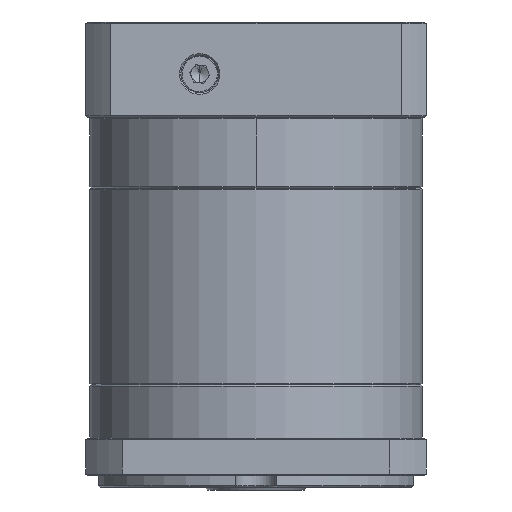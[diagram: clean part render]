
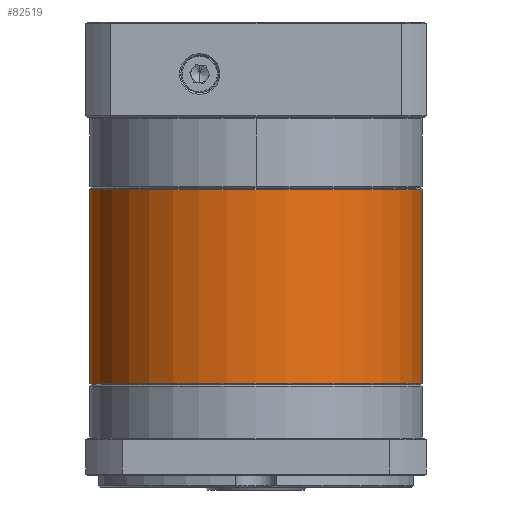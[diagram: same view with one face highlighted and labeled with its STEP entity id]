
A CAD part, front view. The second image highlights one B-rep face of the part: STEP entity #82519.
In plain terms, the highlighted cylindrical face has radius 57.5 mm (diameter 115 mm), a partial arc.
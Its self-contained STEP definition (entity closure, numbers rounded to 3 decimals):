
#1032 = DIRECTION ( 'NONE',  ( -1., 0., 0. ) ) ;
#1298 = VERTEX_POINT ( 'NONE', #102859 ) ;
#6823 = VERTEX_POINT ( 'NONE', #9685 ) ;
#9685 = CARTESIAN_POINT ( 'NONE',  ( 12.259, 44.19, -59.959 ) ) ;
#10805 = AXIS2_PLACEMENT_3D ( 'NONE', #71307, #109475, #61035 ) ;
#11593 = AXIS2_PLACEMENT_3D ( 'NONE', #109524, #119363, #109937 ) ;
#12304 = ORIENTED_EDGE ( 'NONE', *, *, #21270, .T. ) ;
#15906 = DIRECTION ( 'NONE',  ( -1., 0., 0. ) ) ;
#21270 = EDGE_CURVE ( 'NONE', #66455, #6823, #70855, .T. ) ;
#21750 = ORIENTED_EDGE ( 'NONE', *, *, #22551, .F. ) ;
#22551 = EDGE_CURVE ( 'NONE', #86053, #1298, #73290, .T. ) ;
#23089 = VERTEX_POINT ( 'NONE', #54851 ) ;
#27054 = CARTESIAN_POINT ( 'NONE',  ( 69.759, 44.19, -59.459 ) ) ;
#34323 = ORIENTED_EDGE ( 'NONE', *, *, #61677, .T. ) ;
#36501 = DIRECTION ( 'NONE',  ( 0., 0., -1. ) ) ;
#38899 = ORIENTED_EDGE ( 'NONE', *, *, #117816, .T. ) ;
#39633 = AXIS2_PLACEMENT_3D ( 'NONE', #50220, #118408, #1032 ) ;
#42962 = CYLINDRICAL_SURFACE ( 'NONE', #109945, 57.5 ) ;
#50220 = CARTESIAN_POINT ( 'NONE',  ( 69.759, 44.19, -127.17 ) ) ;
#54851 = CARTESIAN_POINT ( 'NONE',  ( 12.259, 44.19, -127.17 ) ) ;
#61035 = DIRECTION ( 'NONE',  ( -1., 0., 0. ) ) ;
#61677 = EDGE_CURVE ( 'NONE', #86053, #66455, #126498, .T. ) ;
#61688 = CARTESIAN_POINT ( 'NONE',  ( 12.259, 44.19, -59.459 ) ) ;
#64378 = CARTESIAN_POINT ( 'NONE',  ( 69.759, -13.31, -59.959 ) ) ;
#65886 = VECTOR ( 'NONE', #112200, 1000. ) ;
#66455 = VERTEX_POINT ( 'NONE', #64378 ) ;
#70055 = ORIENTED_EDGE ( 'NONE', *, *, #109744, .T. ) ;
#70304 = CARTESIAN_POINT ( 'NONE',  ( 127.259, 44.19, -59.959 ) ) ;
#70855 = CIRCLE ( 'NONE', #11593, 57.5 ) ;
#71307 = CARTESIAN_POINT ( 'NONE',  ( 69.759, 44.19, -59.959 ) ) ;
#73027 = DIRECTION ( 'NONE',  ( 0., 0., -1. ) ) ;
#73290 = LINE ( 'NONE', #121843, #85634 ) ;
#82519 = ADVANCED_FACE ( 'NONE', ( #90812 ), #42962, .T. ) ;
#85634 = VECTOR ( 'NONE', #73027, 1000. ) ;
#86053 = VERTEX_POINT ( 'NONE', #70304 ) ;
#90419 = CIRCLE ( 'NONE', #39633, 57.5 ) ;
#90812 = FACE_OUTER_BOUND ( 'NONE', #120927, .T. ) ;
#102859 = CARTESIAN_POINT ( 'NONE',  ( 127.259, 44.19, -127.17 ) ) ;
#109475 = DIRECTION ( 'NONE',  ( 0., 0., -1. ) ) ;
#109524 = CARTESIAN_POINT ( 'NONE',  ( 69.759, 44.19, -59.959 ) ) ;
#109744 = EDGE_CURVE ( 'NONE', #23089, #1298, #90419, .T. ) ;
#109937 = DIRECTION ( 'NONE',  ( -1., 0., 0. ) ) ;
#109945 = AXIS2_PLACEMENT_3D ( 'NONE', #27054, #36501, #15906 ) ;
#112200 = DIRECTION ( 'NONE',  ( 0., 0., -1. ) ) ;
#117816 = EDGE_CURVE ( 'NONE', #6823, #23089, #124135, .T. ) ;
#118408 = DIRECTION ( 'NONE',  ( 0., 0., 1. ) ) ;
#119363 = DIRECTION ( 'NONE',  ( 0., 0., -1. ) ) ;
#120927 = EDGE_LOOP ( 'NONE', ( #21750, #34323, #12304, #38899, #70055 ) ) ;
#121843 = CARTESIAN_POINT ( 'NONE',  ( 127.259, 44.19, -59.459 ) ) ;
#124135 = LINE ( 'NONE', #61688, #65886 ) ;
#126498 = CIRCLE ( 'NONE', #10805, 57.5 ) ;
